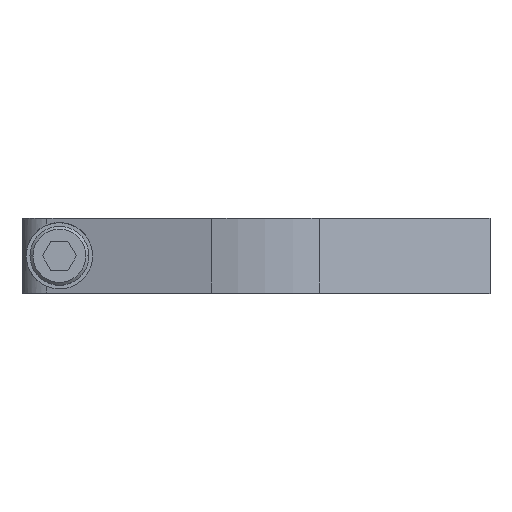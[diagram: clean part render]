
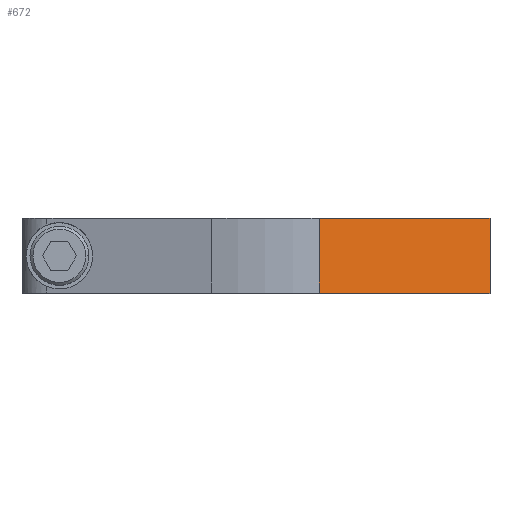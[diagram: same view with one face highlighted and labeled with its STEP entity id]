
A CAD part, top view. The second image highlights one B-rep face of the part: STEP entity #672.
In plain terms, the highlighted planar face has unit normal (0.289, 0, 0.957).
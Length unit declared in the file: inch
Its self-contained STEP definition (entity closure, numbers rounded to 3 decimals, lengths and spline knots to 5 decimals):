
#672 = ADVANCED_FACE ( 'NONE', ( #16353 ), #17779, .T. ) ;
#8330 = EDGE_CURVE ( 'NONE', #9297, #9296, #10010, .T. ) ;
#8481 = EDGE_CURVE ( 'NONE', #9297, #9441, #13108, .T. ) ;
#8493 = EDGE_CURVE ( 'NONE', #9441, #9447, #13127, .T. ) ;
#8508 = EDGE_CURVE ( 'NONE', #9296, #9447, #13148, .T. ) ;
#8681 = EDGE_LOOP ( 'NONE', ( #15723, #15724, #15725, #15726 ) ) ;
#9296 = VERTEX_POINT ( 'NONE', #12204 ) ;
#9297 = VERTEX_POINT ( 'NONE', #12205 ) ;
#9441 = VERTEX_POINT ( 'NONE', #12349 ) ;
#9447 = VERTEX_POINT ( 'NONE', #12355 ) ;
#10010 = LINE ( 'NONE', #10447, #10012 ) ;
#10012 = VECTOR ( 'NONE', #10449, 39.37008 ) ;
#10447 = CARTESIAN_POINT ( 'NONE',  ( 0.84963, 0.5, 0.2873 ) ) ;
#10449 = DIRECTION ( 'NONE',  ( -0.957, 0., 0.289 ) ) ;
#11943 = CARTESIAN_POINT ( 'NONE',  ( 3.125, 6.18732, -0.39963 ) ) ;
#11944 = DIRECTION ( 'NONE',  ( 0., -1., 0. ) ) ;
#11972 = CARTESIAN_POINT ( 'NONE',  ( 0.84963, 0., 0.2873 ) ) ;
#11973 = DIRECTION ( 'NONE',  ( -0.957, 0., 0.289 ) ) ;
#12025 = CARTESIAN_POINT ( 'NONE',  ( 1.98423, 6.18732, -0.05523 ) ) ;
#12026 = DIRECTION ( 'NONE',  ( 0., -1., 0. ) ) ;
#12204 = CARTESIAN_POINT ( 'NONE',  ( 1.98423, 0.5, -0.05523 ) ) ;
#12205 = CARTESIAN_POINT ( 'NONE',  ( 3.125, 0.5, -0.39963 ) ) ;
#12349 = CARTESIAN_POINT ( 'NONE',  ( 3.125, 0., -0.39963 ) ) ;
#12355 = CARTESIAN_POINT ( 'NONE',  ( 1.98423, 0., -0.05523 ) ) ;
#13108 = LINE ( 'NONE', #11943, #13109 ) ;
#13109 = VECTOR ( 'NONE', #11944, 39.37008 ) ;
#13127 = LINE ( 'NONE', #11972, #13128 ) ;
#13128 = VECTOR ( 'NONE', #11973, 39.37008 ) ;
#13148 = LINE ( 'NONE', #12025, #13149 ) ;
#13149 = VECTOR ( 'NONE', #12026, 39.37008 ) ;
#15723 = ORIENTED_EDGE ( 'NONE', *, *, #8481, .F. ) ;
#15724 = ORIENTED_EDGE ( 'NONE', *, *, #8330, .T. ) ;
#15725 = ORIENTED_EDGE ( 'NONE', *, *, #8508, .T. ) ;
#15726 = ORIENTED_EDGE ( 'NONE', *, *, #8493, .F. ) ;
#16353 = FACE_OUTER_BOUND ( 'NONE', #8681, .T. ) ;
#17300 = AXIS2_PLACEMENT_3D ( 'NONE', #17780, #17781, #17782 ) ;
#17779 = PLANE ( 'NONE',  #17300 ) ;
#17780 = CARTESIAN_POINT ( 'NONE',  ( 1.98423, 6.18732, -0.05523 ) ) ;
#17781 = DIRECTION ( 'NONE',  ( 0.289, 0., 0.957 ) ) ;
#17782 = DIRECTION ( 'NONE',  ( 0.957, 0., -0.289 ) ) ;
